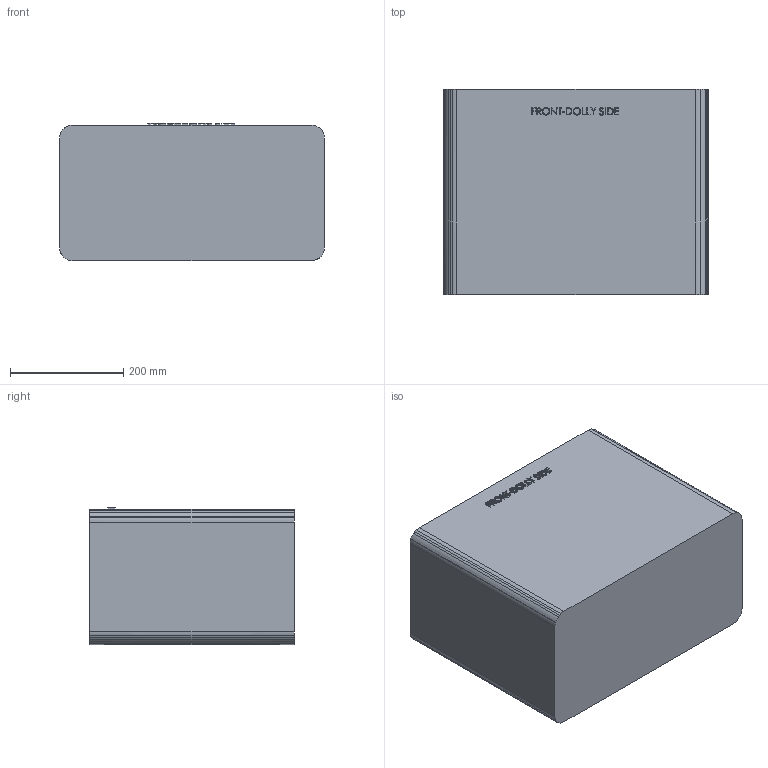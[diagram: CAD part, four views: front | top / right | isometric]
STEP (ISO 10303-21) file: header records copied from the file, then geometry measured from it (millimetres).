
FILE_DESCRIPTION (( 'STEP AP203' ), '1' );
FILE_NAME ('1440_CASE_BOTTOM.STEP', '2006-06-22T00:19:01', ( ' ' ), ( ' ' ), 'SwSTEP 2.0', 'SolidWorks 2005143', '' );
FILE_SCHEMA (( 'CONFIG_CONTROL_DESIGN' ));
Products named in the file (1): 1440_CASE_BOTTOM
Bounding box: 467.86 x 361.95 x 242.44 mm (x, y, z)
Volume: 7177243.7 mm3; surface area: 1159054 mm2
Topology: 1 solids, 1 shells, 415 faces, 1093 edges, 700 vertices
Faces by surface type: plane 176, bspline 137, cylinder 88, torus 8, cone 4, sphere 2
Entity records: 59597 total; most frequent: CARTESIAN_POINT 50479, ORIENTED_EDGE 2174, DIRECTION 1402, EDGE_CURVE 1087, VERTEX_POINT 700, VECTOR 574, LINE 574, EDGE_LOOP 441
